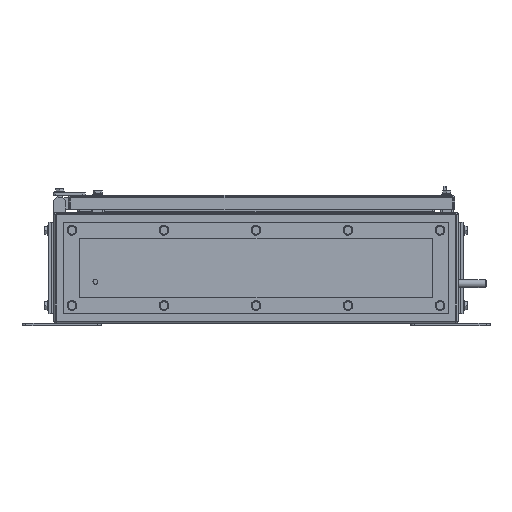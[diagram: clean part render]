
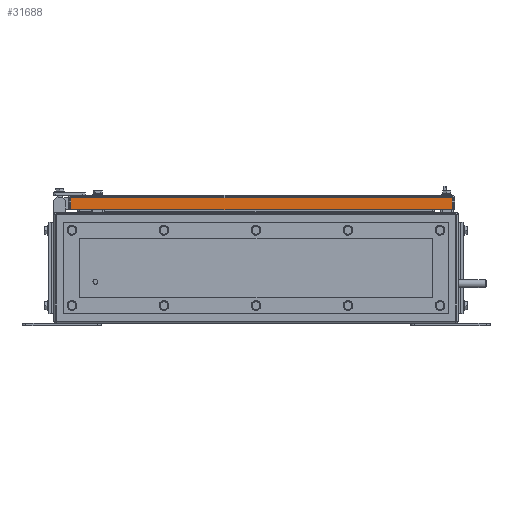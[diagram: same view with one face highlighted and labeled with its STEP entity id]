
A CAD part, front view. The second image highlights one B-rep face of the part: STEP entity #31688.
In plain terms, the highlighted planar face has unit normal (0, -1, 0).
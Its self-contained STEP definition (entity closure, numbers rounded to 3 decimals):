
#536 = DIRECTION ( 'NONE',  ( -1., 0., 0. ) ) ;
#2886 = CARTESIAN_POINT ( 'NONE',  ( 11., -387., 15. ) ) ;
#3763 = VERTEX_POINT ( 'NONE', #12852 ) ;
#3799 = CARTESIAN_POINT ( 'NONE',  ( 495., -387., 18. ) ) ;
#5346 = ORIENTED_EDGE ( 'NONE', *, *, #13650, .T. ) ;
#6434 = VECTOR ( 'NONE', #26223, 1000. ) ;
#6667 = CARTESIAN_POINT ( 'NONE',  ( 11., -387., 18. ) ) ;
#8113 = EDGE_CURVE ( 'NONE', #14604, #3763, #11364, .T. ) ;
#8310 = CARTESIAN_POINT ( 'NONE',  ( 14., -387., 15. ) ) ;
#8752 = LINE ( 'NONE', #3799, #26712 ) ;
#8879 = CARTESIAN_POINT ( 'NONE',  ( 14., -387., 18. ) ) ;
#10425 = CARTESIAN_POINT ( 'NONE',  ( 495., -387., 15. ) ) ;
#11364 = LINE ( 'NONE', #8879, #6434 ) ;
#11398 = DIRECTION ( 'NONE',  ( 0., 0., 1. ) ) ;
#11890 = ORIENTED_EDGE ( 'NONE', *, *, #15956, .T. ) ;
#12852 = CARTESIAN_POINT ( 'NONE',  ( 14., -387., 0. ) ) ;
#12956 = LINE ( 'NONE', #2886, #16132 ) ;
#13650 = EDGE_CURVE ( 'NONE', #29212, #32164, #8752, .T. ) ;
#13926 = DIRECTION ( 'NONE',  ( 0., 1., 0. ) ) ;
#14420 = FACE_OUTER_BOUND ( 'NONE', #28017, .T. ) ;
#14604 = VERTEX_POINT ( 'NONE', #8310 ) ;
#15892 = ORIENTED_EDGE ( 'NONE', *, *, #23575, .T. ) ;
#15956 = EDGE_CURVE ( 'NONE', #32164, #14604, #12956, .T. ) ;
#16132 = VECTOR ( 'NONE', #536, 1000. ) ;
#16793 = CARTESIAN_POINT ( 'NONE',  ( 11., -387., 0. ) ) ;
#19475 = ORIENTED_EDGE ( 'NONE', *, *, #8113, .T. ) ;
#21914 = LINE ( 'NONE', #16793, #25368 ) ;
#23575 = EDGE_CURVE ( 'NONE', #3763, #29212, #21914, .T. ) ;
#25033 = AXIS2_PLACEMENT_3D ( 'NONE', #6667, #13926, #31930 ) ;
#25368 = VECTOR ( 'NONE', #29188, 1000. ) ;
#26223 = DIRECTION ( 'NONE',  ( 0., 0., -1. ) ) ;
#26712 = VECTOR ( 'NONE', #11398, 1000. ) ;
#28017 = EDGE_LOOP ( 'NONE', ( #15892, #5346, #11890, #19475 ) ) ;
#28368 = CARTESIAN_POINT ( 'NONE',  ( 495., -387., 0. ) ) ;
#28958 = PLANE ( 'NONE',  #25033 ) ;
#29188 = DIRECTION ( 'NONE',  ( 1., 0., 0. ) ) ;
#29212 = VERTEX_POINT ( 'NONE', #28368 ) ;
#31688 = ADVANCED_FACE ( 'NONE', ( #14420 ), #28958, .F. ) ;
#31930 = DIRECTION ( 'NONE',  ( 0., 0., 1. ) ) ;
#32164 = VERTEX_POINT ( 'NONE', #10425 ) ;
